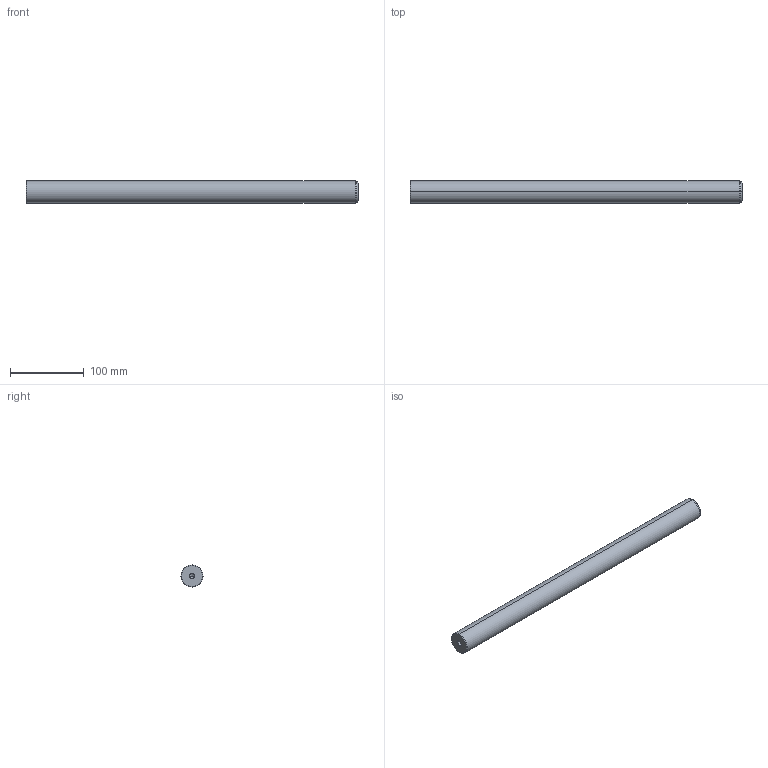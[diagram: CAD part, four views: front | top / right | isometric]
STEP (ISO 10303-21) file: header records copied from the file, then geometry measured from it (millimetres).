
FILE_DESCRIPTION(('CATIA V5 STEP Exchange'),'2;1');
FILE_NAME('C:\Users\Utente\Desktop\IO LAVORO\3D X SITO CF\X SITO\720\720-30x450.stp','2021-01-01T12:26:20+00:00',('none'),('none'),'CATIA Version 5 Release 20 GA (IN-10)','CATIA V5 STEP AP203','none');
FILE_SCHEMA(('CONFIG_CONTROL_DESIGN'));
Length unit declared in the file: millimetre
Products named in the file (1): 720-30x450
Bounding box: 450 x 30 x 30 mm (x, y, z)
Volume: 316055.4 mm3; surface area: 44622.2 mm2
Topology: 1 solids, 1 shells, 22 faces, 62 edges, 40 vertices
Faces by surface type: cone 12, cylinder 6, plane 2, torus 2
Entity records: 806 total; most frequent: CARTESIAN_POINT 229, ORIENTED_EDGE 116, DIRECTION 93, EDGE_CURVE 58, AXIS2_PLACEMENT_3D 54, VERTEX_POINT 40, CIRCLE 31, EDGE_LOOP 24
